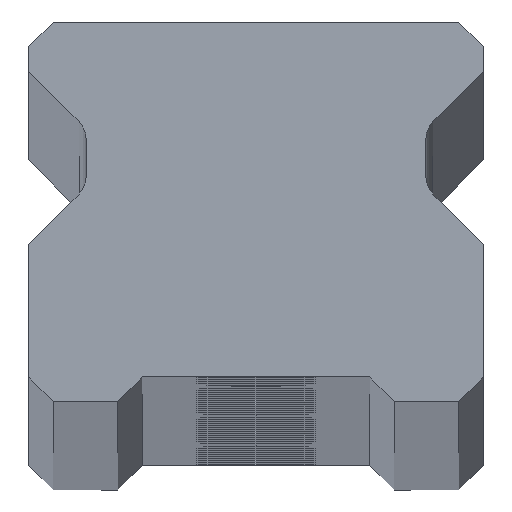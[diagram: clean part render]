
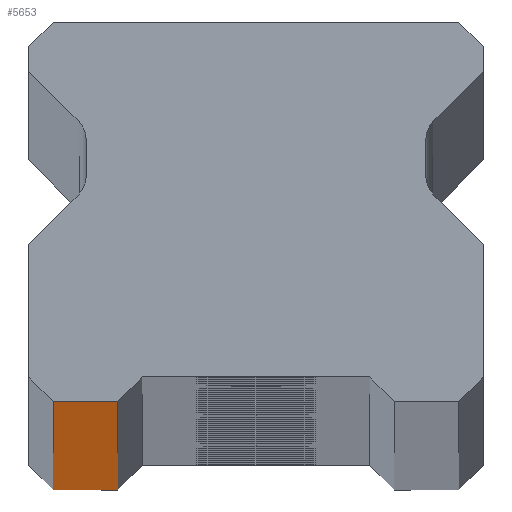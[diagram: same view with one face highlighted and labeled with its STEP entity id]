
A CAD part, top view. The second image highlights one B-rep face of the part: STEP entity #5653.
In plain terms, the highlighted planar face has unit normal (0, -1, 0).
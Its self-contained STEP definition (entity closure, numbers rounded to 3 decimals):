
#721 = AXIS2_PLACEMENT_3D ( 'NONE', #6460, #2368, #3046 ) ;
#735 = ORIENTED_EDGE ( 'NONE', *, *, #1631, .T. ) ;
#796 = ORIENTED_EDGE ( 'NONE', *, *, #5392, .T. ) ;
#890 = VERTEX_POINT ( 'NONE', #2089 ) ;
#1162 = EDGE_CURVE ( 'NONE', #3553, #890, #1754, .T. ) ;
#1341 = CARTESIAN_POINT ( 'NONE',  ( 11.5, 0., 1280. ) ) ;
#1631 = EDGE_CURVE ( 'NONE', #890, #3641, #7807, .T. ) ;
#1672 = ORIENTED_EDGE ( 'NONE', *, *, #4368, .F. ) ;
#1754 = LINE ( 'NONE', #8670, #6327 ) ;
#2089 = CARTESIAN_POINT ( 'NONE',  ( -10.25, 0., -1280. ) ) ;
#2156 = VECTOR ( 'NONE', #6232, 1000. ) ;
#2181 = CARTESIAN_POINT ( 'NONE',  ( 11.5, 0., -1280. ) ) ;
#2326 = EDGE_LOOP ( 'NONE', ( #735, #796, #1672, #8251 ) ) ;
#2331 = LINE ( 'NONE', #1341, #7131 ) ;
#2368 = DIRECTION ( 'NONE',  ( 0., 1., 0. ) ) ;
#2982 = CARTESIAN_POINT ( 'NONE',  ( -10.25, 0., 1280. ) ) ;
#3046 = DIRECTION ( 'NONE',  ( -1., 0., 0. ) ) ;
#3257 = VERTEX_POINT ( 'NONE', #3915 ) ;
#3553 = VERTEX_POINT ( 'NONE', #2982 ) ;
#3641 = VERTEX_POINT ( 'NONE', #3905 ) ;
#3905 = CARTESIAN_POINT ( 'NONE',  ( -7., 0., -1280. ) ) ;
#3915 = CARTESIAN_POINT ( 'NONE',  ( -7., 0., 1280. ) ) ;
#4368 = EDGE_CURVE ( 'NONE', #3553, #3257, #2331, .T. ) ;
#5392 = EDGE_CURVE ( 'NONE', #3641, #3257, #6256, .T. ) ;
#5653 = ADVANCED_FACE ( 'NONE', ( #6366 ), #5779, .F. ) ;
#5779 = PLANE ( 'NONE',  #721 ) ;
#5885 = DIRECTION ( 'NONE',  ( 0., 0., 1. ) ) ;
#6232 = DIRECTION ( 'NONE',  ( 1., 0., 0. ) ) ;
#6256 = LINE ( 'NONE', #7018, #6698 ) ;
#6327 = VECTOR ( 'NONE', #7989, 1000. ) ;
#6366 = FACE_OUTER_BOUND ( 'NONE', #2326, .T. ) ;
#6460 = CARTESIAN_POINT ( 'NONE',  ( 11.5, 0., 1280. ) ) ;
#6698 = VECTOR ( 'NONE', #5885, 1000. ) ;
#7018 = CARTESIAN_POINT ( 'NONE',  ( -7., 0., -1280. ) ) ;
#7131 = VECTOR ( 'NONE', #7486, 1000. ) ;
#7486 = DIRECTION ( 'NONE',  ( 1., 0., 0. ) ) ;
#7807 = LINE ( 'NONE', #2181, #2156 ) ;
#7989 = DIRECTION ( 'NONE',  ( 0., 0., -1. ) ) ;
#8251 = ORIENTED_EDGE ( 'NONE', *, *, #1162, .T. ) ;
#8670 = CARTESIAN_POINT ( 'NONE',  ( -10.25, 0., 1280. ) ) ;
